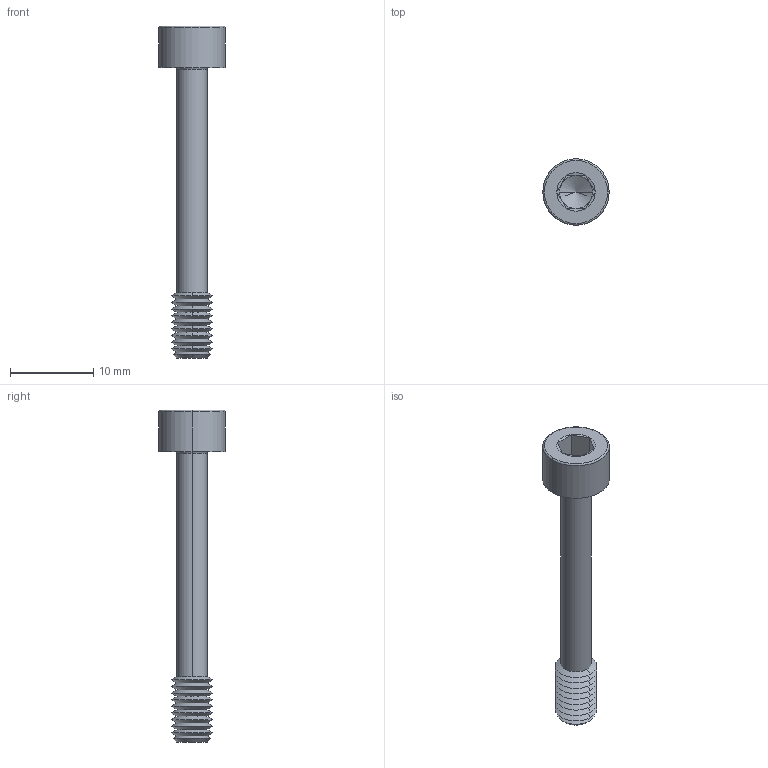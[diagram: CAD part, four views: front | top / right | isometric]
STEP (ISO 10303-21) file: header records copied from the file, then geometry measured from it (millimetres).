
FILE_DESCRIPTION (( 'STEP AP203' ), '1' );
FILE_NAME ('P0154.050-035-BL.step', '2024-06-17T11:27:29', ( '' ), ( '' ), 'SwSTEP 2.0', 'SolidWorks 2019', '' );
FILE_SCHEMA (( 'CONFIG_CONTROL_DESIGN' ));
Length unit declared in the file: millimetre
Products named in the file (1): P0154.050-035-BL
Bounding box: 8 x 8 x 40 mm (x, y, z)
Volume: 597.2 mm3; surface area: 803.6 mm2
Topology: 1 solids, 1 shells, 71 faces, 144 edges, 75 vertices
Faces by surface type: cone 48, plane 15, torus 4, cylinder 4
Entity records: 1887 total; most frequent: DIRECTION 352, CARTESIAN_POINT 315, ORIENTED_EDGE 284, AXIS2_PLACEMENT_3D 144, EDGE_CURVE 142, VERTEX_POINT 75, EDGE_LOOP 73, CIRCLE 72
